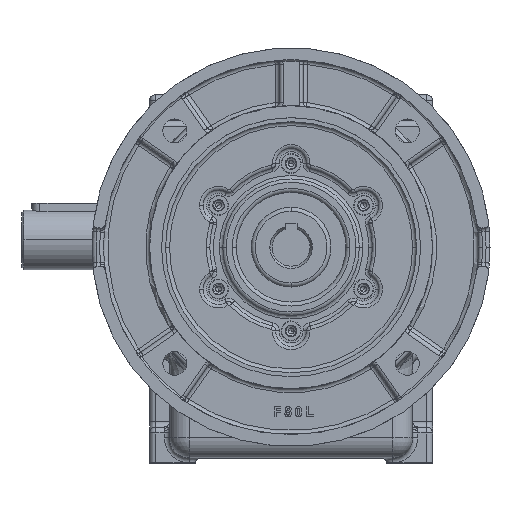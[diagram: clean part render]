
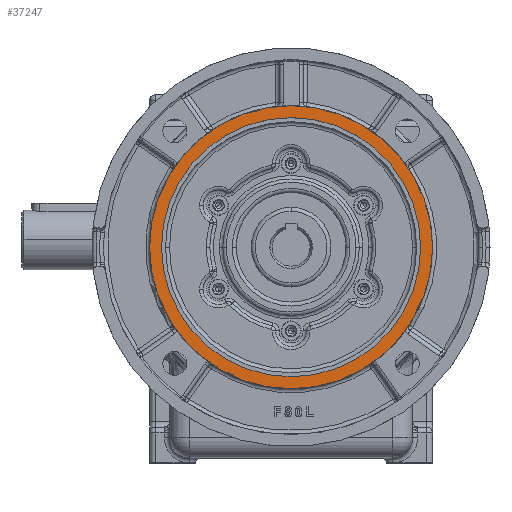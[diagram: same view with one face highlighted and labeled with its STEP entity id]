
A CAD part, top view. The second image highlights one B-rep face of the part: STEP entity #37247.
In plain terms, the highlighted planar face has unit normal (0, 0, 1).
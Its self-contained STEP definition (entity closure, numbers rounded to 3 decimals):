
#6232 = CARTESIAN_POINT ( 'NONE',  ( 65., 0., 0. ) ) ;
#6233 = DIRECTION ( 'NONE',  ( 1., 0., 0. ) ) ;
#6234 = DIRECTION ( 'NONE',  ( 0., 0., 1. ) ) ;
#6235 = CARTESIAN_POINT ( 'NONE',  ( 0., 0., 0. ) ) ;
#6236 = AXIS2_PLACEMENT_3D ( 'NONE', #6235, #6234, #6233 ) ;
#6237 = CIRCLE ( 'NONE', #6236, 65. ) ;
#6238 = CARTESIAN_POINT ( 'NONE',  ( -65., 0., 0. ) ) ;
#7808 = DIRECTION ( 'NONE',  ( 1., 0., 0. ) ) ;
#7809 = DIRECTION ( 'NONE',  ( 0., 0., 1. ) ) ;
#7810 = CARTESIAN_POINT ( 'NONE',  ( 0., 0., 0. ) ) ;
#7811 = AXIS2_PLACEMENT_3D ( 'NONE', #7810, #7809, #7808 ) ;
#7812 = CIRCLE ( 'NONE', #7811, 65. ) ;
#8302 = DIRECTION ( 'NONE',  ( -1., 0., 0. ) ) ;
#8303 = DIRECTION ( 'NONE',  ( 0., 0., -1. ) ) ;
#8304 = CARTESIAN_POINT ( 'NONE',  ( 0., 71., 0. ) ) ;
#8305 = AXIS2_PLACEMENT_3D ( 'NONE', #8304, #8303, #8302 ) ;
#8306 = PLANE ( 'NONE',  #8305 ) ;
#8307 = FACE_OUTER_BOUND ( 'NONE', #37256, .T. ) ;
#8308 = FACE_BOUND ( 'NONE', #37250, .T. ) ;
#8310 = DIRECTION ( 'NONE',  ( 1., 0., 0. ) ) ;
#8311 = DIRECTION ( 'NONE',  ( 0., 0., 1. ) ) ;
#8312 = CARTESIAN_POINT ( 'NONE',  ( 0., 0., 0. ) ) ;
#8313 = AXIS2_PLACEMENT_3D ( 'NONE', #8312, #8311, #8310 ) ;
#8314 = CIRCLE ( 'NONE', #8313, 71. ) ;
#28810 = VERTEX_POINT ( 'NONE', #100896 ) ;
#28814 = EDGE_CURVE ( 'NONE', #28816, #28810, #100895, .T. ) ;
#28816 = VERTEX_POINT ( 'NONE', #100890 ) ;
#34769 = VERTEX_POINT ( 'NONE', #6238 ) ;
#34773 = EDGE_CURVE ( 'NONE', #34769, #34775, #6237, .T. ) ;
#34775 = VERTEX_POINT ( 'NONE', #6232 ) ;
#36489 = EDGE_CURVE ( 'NONE', #34775, #34769, #7812, .T. ) ;
#37236 = EDGE_CURVE ( 'NONE', #28810, #28816, #8314, .T. ) ;
#37247 = ADVANCED_FACE ( 'NONE', ( #8308, #8307 ), #8306, .F. ) ;
#37250 = EDGE_LOOP ( 'NONE', ( #37252, #37254 ) ) ;
#37252 = ORIENTED_EDGE ( 'NONE', *, *, #36489, .F. ) ;
#37254 = ORIENTED_EDGE ( 'NONE', *, *, #34773, .F. ) ;
#37256 = EDGE_LOOP ( 'NONE', ( #37258, #37410 ) ) ;
#37258 = ORIENTED_EDGE ( 'NONE', *, *, #28814, .T. ) ;
#37410 = ORIENTED_EDGE ( 'NONE', *, *, #37236, .T. ) ;
#100890 = CARTESIAN_POINT ( 'NONE',  ( 71., 0., 0. ) ) ;
#100891 = DIRECTION ( 'NONE',  ( 1., 0., 0. ) ) ;
#100892 = DIRECTION ( 'NONE',  ( 0., 0., 1. ) ) ;
#100893 = CARTESIAN_POINT ( 'NONE',  ( 0., 0., 0. ) ) ;
#100894 = AXIS2_PLACEMENT_3D ( 'NONE', #100893, #100892, #100891 ) ;
#100895 = CIRCLE ( 'NONE', #100894, 71. ) ;
#100896 = CARTESIAN_POINT ( 'NONE',  ( -71., 0., 0. ) ) ;
